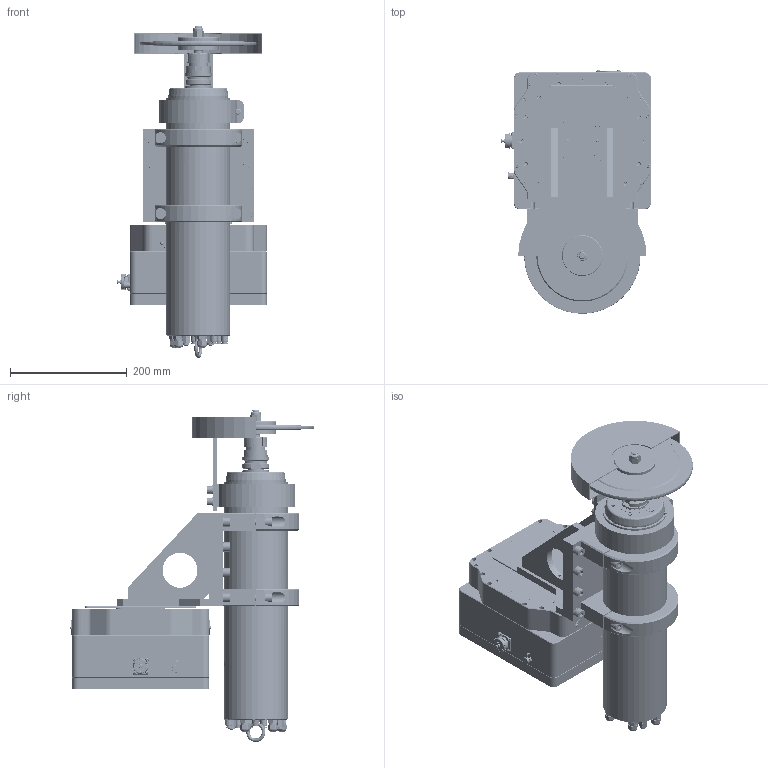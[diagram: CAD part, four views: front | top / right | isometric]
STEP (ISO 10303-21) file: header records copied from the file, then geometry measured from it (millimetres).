
FILE_DESCRIPTION (( 'STEP AP214' ), '1' );
FILE_NAME ('2¡¢5.5KWµç¶¯ÖáÓëÒ»Î¬1300N¸¡¶¯Ä£¿é£', '2025-09-30T01:41:27', ( 'selfweld_user' ), ( '' ), 'SwSTEP 2.0', 'SolidWorks 2022', '' );
FILE_SCHEMA (( 'AUTOMOTIVE_DESIGN' ));
Length unit declared in the file: millimetre
Products named in the file (21): 5.5K蟀諉錨璃2__t2__t2; GB／T859-1987轻型弹簧垫圈(装配)10×2×°__)10_á2_á____)10_¨￠2; GB／T889．1-20001型非金属嵌件六角锁紧螺母M12ù_______Y__M12¨′_______Y__M12; GB／T70．1-2000内六角圆柱头螺钉M8×20·_Y_¤M8_á20_¤_Y__èM8_¨￠20; ﾖｱｾｶ5mm-20mmﾏ伹_ｨｲm_｡ｧ2; 5.5KW电动轴与1300N一维浮动模块连接件1_ˉ_￡_éá__ó_t1__￥__ê_¨|¨￠__¨__t1; 孔直径32厚10 砂轮连接件1A_á__ó_t1A_¨￠__¨__t1A; 5.5KW电动轴与1300N一维浮动模块连接件2_ˉ_￡_éá__ó_t2__￥__ê_¨|¨￠__¨__t2; GB／T97．2-1985平垫圈倒角型A级8×1．6íA__8_á1￡_6¨aA__8_¨￠1_ê_6; 滅誘欶-1A-1A-1A; GB／T70．1-2000内六角圆柱头螺钉M10×25_Y_¤M10_á25_Y__èM10_¨￠25; ECM1A-1000-004-000ｸ｡ｶｯﾄ｣ｿ鬟ｨｸ｡ｶｯｾﾓﾖﾐﾎｻ｣ｩ__｡･_ｨｮ_D__｡鸚___｣､_｡ｧ__D___ｨｺ_; 2、5.5KW电动轴与一维1300N浮动模块（横装）装配体_￡_é￡¨oá×°￡_×°__ì___ê_¨|_ê_§o¨￠_á___ê__á____¨__; 仱謫蟀諉璃2A車_t2A“__t2A; 5.5KWㄗHYC110-8Z-5.5ㄘ萇雄粣__‘_芍___ㄓ_“⊿; BT30絮梟摯嶺絮隊炡絮_1_∟_3米__1__豕_3|足__1; 200mm踢試仱謫谷∼__“|____; GB／T70．1-2000内六角圆柱头螺钉M10×35_Y_¤M10_á35_Y__èM10_¨￠35; ｷﾀｻ､ﾕﾖ｡鐇__ｨｨ__; GB／T70．1-2000内六角圆柱头螺钉M10×40_Y_¤M10_á40_Y__èM10_¨￠40; 5.5蟀諉錨璃1__t1__t1
Assembly tree (57 placements, depth 2):
  2、5.5KW电动轴与一维1300N浮动模块（横装）装配体_￡_é￡¨oá×°￡_×°__ì___ê_¨|_ê_§o¨￠_á___ê__á____¨__
    5.5KWㄗHYC110-8Z-5.5ㄘ萇雄粣__‘_芍___ㄓ_“⊿
    5.5K蟀諉錨璃2__t2__t2  x2
    5.5蟀諉錨璃1__t1__t1
    GB／T70．1-2000内六角圆柱头螺钉M10×40_Y_¤M10_á40_Y__èM10_¨￠40  x4
    ﾖｱｾｶ5mm-20mmﾏ伹_ｨｲm_｡ｧ2  x2
    GB／T70．1-2000内六角圆柱头螺钉M8×20·_Y_¤M8_á20_¤_Y__èM8_¨￠20  x10
    GB／T859-1987轻型弹簧垫圈(装配)10×2×°__)10_á2_á____)10_¨￠2  x13
    GB／T70．1-2000内六角圆柱头螺钉M10×25_Y_¤M10_á25_Y__èM10_¨￠25  x8
    ECM1A-1000-004-000ｸ｡ｶｯﾄ｣ｿ鬟ｨｸ｡ｶｯｾﾓﾖﾐﾎｻ｣ｩ__｡･_ｨｮ_D__｡鸚___｣､_｡ｧ__D___ｨｺ_
    BT30絮梟摯嶺絮隊炡絮_1_∟_3米__1__豕_3|足__1
    5.5KW电动轴与1300N一维浮动模块连接件2_ˉ_￡_éá__ó_t2__￥__ê_¨|¨￠__¨__t2  x2
    5.5KW电动轴与1300N一维浮动模块连接件1_ˉ_￡_éá__ó_t1__￥__ê_¨|¨￠__¨__t1
    孔直径32厚10 砂轮连接件1A_á__ó_t1A_¨￠__¨__t1A
    200mm踢試仱謫谷∼__“|____
    仱謫蟀諉璃2A車_t2A“__t2A
    GB／T889．1-20001型非金属嵌件六角锁紧螺母M12ù_______Y__M12¨′_______Y__M12
    ｷﾀｻ､ﾕﾖ｡鐇__ｨｨ__
    滅誘欶-1A-1A-1A
    GB／T70．1-2000内六角圆柱头螺钉M10×35_Y_¤M10_á35_Y__èM10_¨￠35
    GB／T97．2-1985平垫圈倒角型A级8×1．6íA__8_á1￡_6¨aA__8_¨￠1_ê_6  x4
Bounding box: 256.9 x 418.5 x 569.75 mm (x, y, z)
Volume: 2398732.9 mm3; surface area: 1654937.9 mm2
Topology: 56 solids, 212 shells, 8024 faces, 19194 edges, 11825 vertices
Faces by surface type: plane 3606, cylinder 2414, cone 1270, torus 445, bspline 263, sphere 26
Entity records: 267458 total; most frequent: CARTESIAN_POINT 75382, DIRECTION 36465, ORIENTED_EDGE 34208, EDGE_CURVE 17362, AXIS2_PLACEMENT_3D 13504, VERTEX_POINT 10922, LINE 9457, VECTOR 9457
